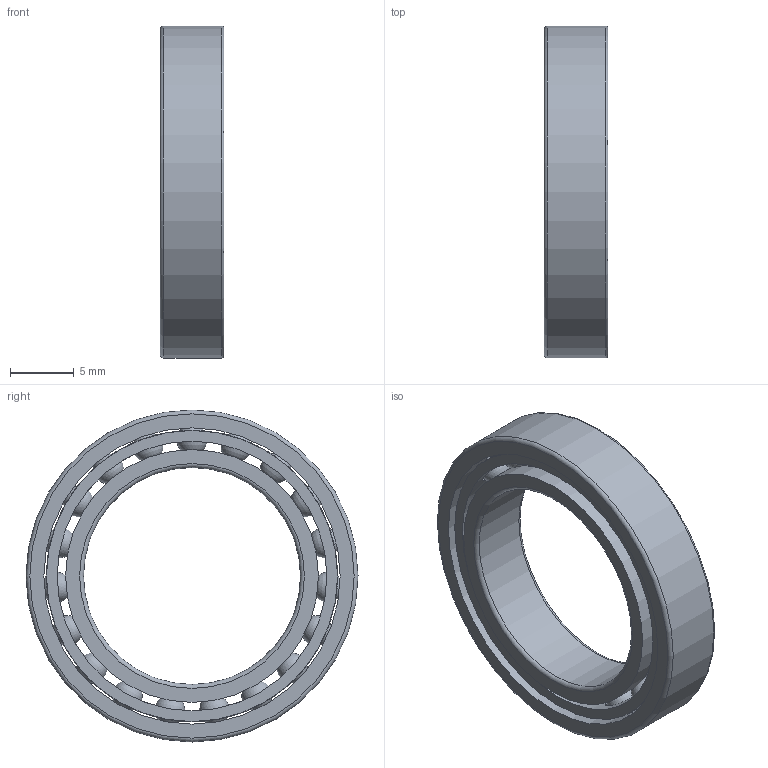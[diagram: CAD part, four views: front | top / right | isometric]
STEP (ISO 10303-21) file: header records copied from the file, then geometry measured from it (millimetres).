
FILE_DESCRIPTION(/* description */ (''),/* implementation_level */ '2;1');
FILE_NAME(/* name */ 'S_61803_TA.step',/* time_stamp */ '2013-03-06T14:46:27+01:00',/* author */ ('Marian'),/* organization */ ('GMN'),/* preprocessor_version */ 'ST-DEVELOPER v11',/* originating_system */ 'SIEMENS UGS NX 6.0',/* authorisation */ '');
FILE_SCHEMA (('CONFIG_CONTROL_DESIGN'));
Length unit declared in the file: millimetre
Products named in the file (1): S_61803_TA
Bounding box: 5 x 26 x 26 mm (x, y, z)
Volume: 1132.6 mm3; surface area: 2633.9 mm2
Topology: 22 solids, 22 shells, 58 faces, 148 edges, 96 vertices
Faces by surface type: cylinder 26, sphere 19, torus 6, plane 6, cone 1
Full cylindrical faces by diameter (mm): 2.581 x19, 17 x1, 19.8 x2, 21.121 x1, 22.8 x1, 23.2 x1, 26 x1
Entity records: 3424 total; most frequent: CARTESIAN_POINT 2360, DIRECTION 158, FACE_BOUND 135, EDGE_LOOP 116, ORIENTED_EDGE 116, AXIS2_PLACEMENT_3D 79, VERTEX_POINT 77, EDGE_CURVE 58
